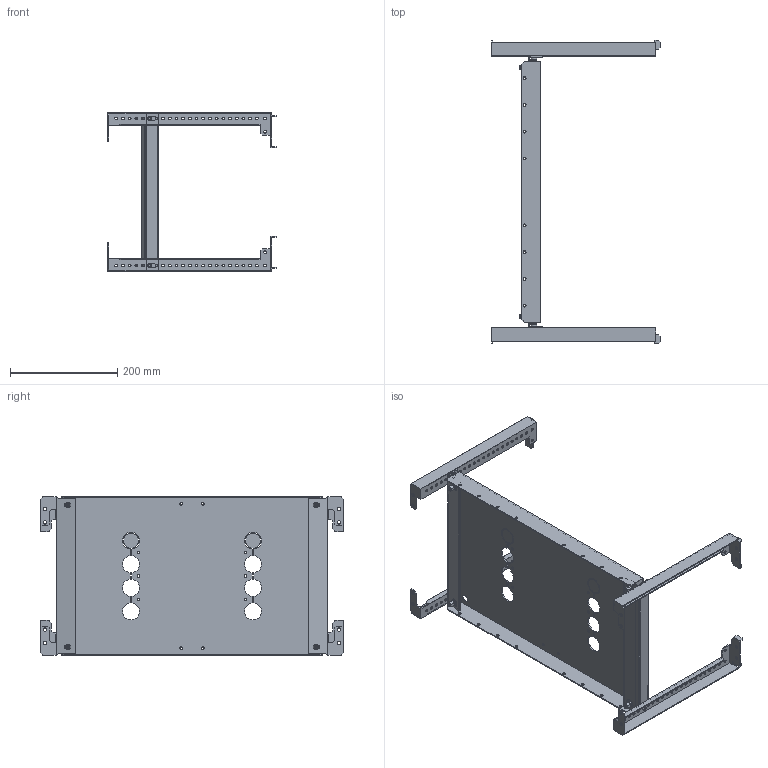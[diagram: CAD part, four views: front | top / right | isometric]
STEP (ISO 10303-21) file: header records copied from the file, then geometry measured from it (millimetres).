
FILE_DESCRIPTION (( 'STEP AP214' ), '1' );
FILE_NAME ('FO-00-HIF-030-060 Êîìïëåêò ãîðèçîíòàëüíîé óñòàíîâêè ARMAT MCCB òèïîðàçìåð H I ôèêñèðîâàííîãî èñïîëíåíèÿ 3II4P 300õ600 ìì.STEP', '2025-07-16T07:17:07', ( '' ), ( '' ), 'SwSTEP 2.0', 'SolidWorks 2023', '' );
FILE_SCHEMA (( 'AUTOMOTIVE_DESIGN' ));
Length unit declared in the file: millimetre
Products named in the file (5): FO-00-HIF-030-060 Комплект горизонтальной установки ARMAT MCCB типоразмер H I фиксированного исполнения 3II4P 300х600 мм; Панель монтажная H I фиксированная 300x600; Траверса горизонтальнаяD; Траверса горизонтальная; Винты DIN 912 4xM6x20 300x600
Assembly tree (6 placements, depth 2):
  FO-00-HIF-030-060 Комплект горизонтальной установки ARMAT MCCB типоразмер H I фиксированного исполнения 3II4P 300х600 мм
    Винты DIN 912 4xM6x20 300x600
    Панель монтажная H I фиксированная 300x600
    Траверса горизонтальная  x2
    Траверса горизонтальнаяD  x2
Bounding box: 314.5 x 565.63 x 297 mm (x, y, z)
Volume: 642487.7 mm3; surface area: 691110.9 mm2
Topology: 11 solids, 11 shells, 1058 faces, 2888 edges, 1904 vertices
Faces by surface type: cylinder 500, plane 470, cone 56, torus 32
Entity records: 27521 total; most frequent: CARTESIAN_POINT 5363, DIRECTION 4728, ORIENTED_EDGE 4444, EDGE_CURVE 2222, AXIS2_PLACEMENT_3D 1729, VERTEX_POINT 1460, LINE 1270, VECTOR 1270
